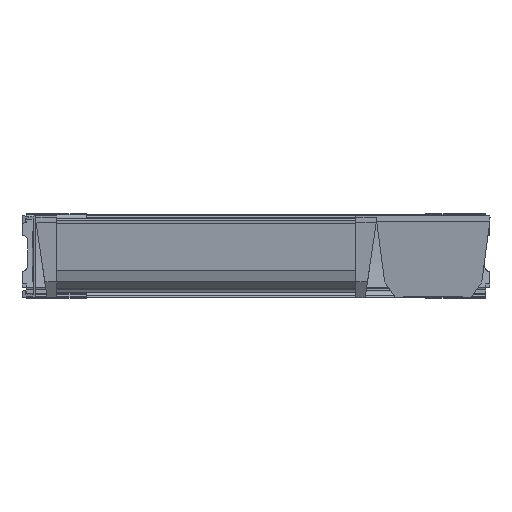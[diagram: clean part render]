
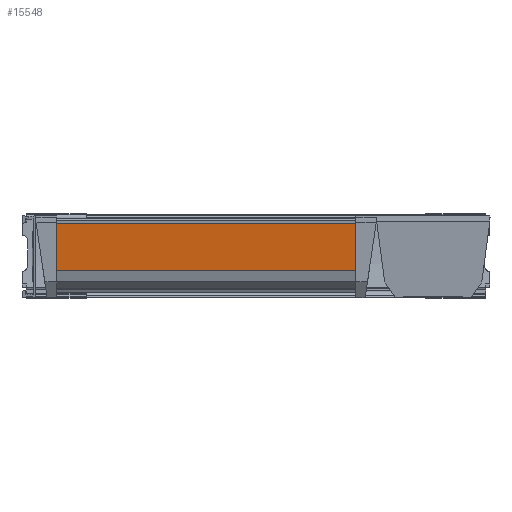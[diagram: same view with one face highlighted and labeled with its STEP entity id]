
A CAD part, left-side view. The second image highlights one B-rep face of the part: STEP entity #15548.
In plain terms, the highlighted planar face has unit normal (-0.991, 0, -0.131).
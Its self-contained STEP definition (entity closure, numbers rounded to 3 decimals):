
#13998 = AXIS2_PLACEMENT_3D ( 'NONE', #39729, #39745, #39746 ) ;
#15548 = ADVANCED_FACE ( 'NONE', ( #35680 ), #39731, .F. ) ;
#17967 = VERTEX_POINT ( 'NONE', #30920 ) ;
#17986 = VERTEX_POINT ( 'NONE', #30939 ) ;
#18027 = VERTEX_POINT ( 'NONE', #30980 ) ;
#18295 = VERTEX_POINT ( 'NONE', #31245 ) ;
#20456 = VECTOR ( 'NONE', #27383, 1000. ) ;
#20457 = LINE ( 'NONE', #27382, #20456 ) ;
#20458 = LINE ( 'NONE', #27367, #20462 ) ;
#20460 = LINE ( 'NONE', #27375, #20461 ) ;
#20461 = VECTOR ( 'NONE', #27376, 1000. ) ;
#20462 = VECTOR ( 'NONE', #27378, 1000. ) ;
#20463 = VECTOR ( 'NONE', #27388, 1000. ) ;
#20464 = LINE ( 'NONE', #27387, #20463 ) ;
#25424 = ORIENTED_EDGE ( 'NONE', *, *, #39158, .F. ) ;
#25426 = ORIENTED_EDGE ( 'NONE', *, *, #39156, .F. ) ;
#25428 = ORIENTED_EDGE ( 'NONE', *, *, #39155, .T. ) ;
#25430 = ORIENTED_EDGE ( 'NONE', *, *, #39160, .F. ) ;
#27367 = CARTESIAN_POINT ( 'NONE',  ( 8.199, 107., 21.942 ) ) ;
#27375 = CARTESIAN_POINT ( 'NONE',  ( 8.199, 351., 21.942 ) ) ;
#27376 = DIRECTION ( 'NONE',  ( 0., -1., 0. ) ) ;
#27378 = DIRECTION ( 'NONE',  ( 0.131, 0., -0.991 ) ) ;
#27382 = CARTESIAN_POINT ( 'NONE',  ( 2.926, 351., 61.998 ) ) ;
#27383 = DIRECTION ( 'NONE',  ( 0., -1., 0. ) ) ;
#27387 = CARTESIAN_POINT ( 'NONE',  ( 8.199, 345.5, 21.942 ) ) ;
#27388 = DIRECTION ( 'NONE',  ( -0.131, 0., 0.991 ) ) ;
#30920 = CARTESIAN_POINT ( 'NONE',  ( 8.199, 107., 21.942 ) ) ;
#30939 = CARTESIAN_POINT ( 'NONE',  ( 2.926, 345.5, 61.998 ) ) ;
#30980 = CARTESIAN_POINT ( 'NONE',  ( 2.926, 107., 61.998 ) ) ;
#31245 = CARTESIAN_POINT ( 'NONE',  ( 8.199, 345.5, 21.942 ) ) ;
#33351 = EDGE_LOOP ( 'NONE', ( #25430, #25428, #25426, #25424 ) ) ;
#35680 = FACE_OUTER_BOUND ( 'NONE', #33351, .T. ) ;
#39155 = EDGE_CURVE ( 'NONE', #18295, #17967, #20460, .T. ) ;
#39156 = EDGE_CURVE ( 'NONE', #18027, #17967, #20458, .T. ) ;
#39158 = EDGE_CURVE ( 'NONE', #17986, #18027, #20457, .T. ) ;
#39160 = EDGE_CURVE ( 'NONE', #18295, #17986, #20464, .T. ) ;
#39729 = CARTESIAN_POINT ( 'NONE',  ( 8.199, 351., 21.942 ) ) ;
#39731 = PLANE ( 'NONE',  #13998 ) ;
#39745 = DIRECTION ( 'NONE',  ( 0.991, 0., 0.131 ) ) ;
#39746 = DIRECTION ( 'NONE',  ( 0.131, 0., -0.991 ) ) ;
